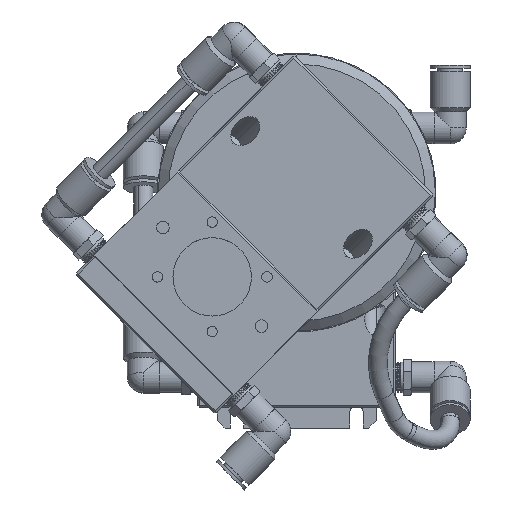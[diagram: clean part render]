
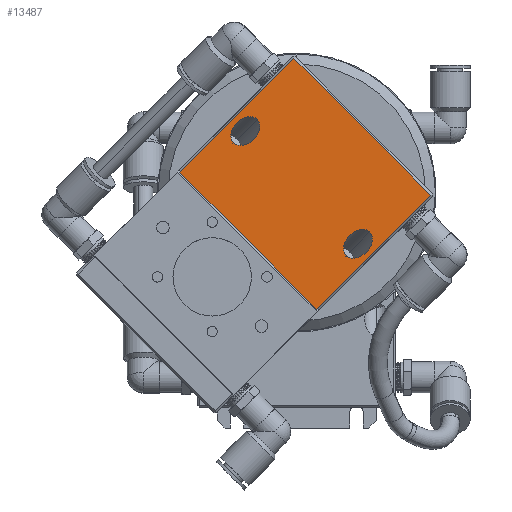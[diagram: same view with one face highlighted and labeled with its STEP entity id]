
A CAD part, top view. The second image highlights one B-rep face of the part: STEP entity #13487.
In plain terms, the highlighted planar face has unit normal (0, 0, 1).
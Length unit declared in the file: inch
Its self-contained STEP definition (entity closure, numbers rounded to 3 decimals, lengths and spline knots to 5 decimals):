
#45 = EDGE_CURVE ( 'NONE', #20404, #13181, #15575, .T. ) ;
#280 = CARTESIAN_POINT ( 'NONE',  ( -0.45906, 3.33767, 24.15199 ) ) ;
#479 = CARTESIAN_POINT ( 'NONE',  ( -1.90933, 1.8874, 24.15199 ) ) ;
#556 = VERTEX_POINT ( 'NONE', #17065 ) ;
#1728 =( BOUNDED_CURVE ( )  B_SPLINE_CURVE ( 3, ( #7573, #13856, #4454, #15426 ),
 .UNSPECIFIED., .F., .T. ) 
 B_SPLINE_CURVE_WITH_KNOTS ( ( 4, 4 ),
 ( 3.14159, 6.28319 ),
 .UNSPECIFIED. ) 
 CURVE ( )  GEOMETRIC_REPRESENTATION_ITEM ( )  RATIONAL_B_SPLINE_CURVE ( ( 1., 0.333, 0.333, 1. ) ) 
 REPRESENTATION_ITEM ( '' )  );
#2082 = ORIENTED_EDGE ( 'NONE', *, *, #4378, .T. ) ;
#2163 = LINE ( 'NONE', #7308, #19119 ) ;
#2369 = CARTESIAN_POINT ( 'NONE',  ( -1.03378, 2.6484, 24.15199 ) ) ;
#2384 = LINE ( 'NONE', #2712, #14449 ) ;
#2700 = CARTESIAN_POINT ( 'NONE',  ( -2.6573, 4.27191, 24.15199 ) ) ;
#2712 = CARTESIAN_POINT ( 'NONE',  ( -0.45906, 3.30232, 24.15199 ) ) ;
#2806 = CARTESIAN_POINT ( 'NONE',  ( -1.24309, 2.8577, 24.15199 ) ) ;
#3400 = ORIENTED_EDGE ( 'NONE', *, *, #3833, .T. ) ;
#3629 = EDGE_CURVE ( 'NONE', #8925, #9160, #15584, .T. ) ;
#3695 = CARTESIAN_POINT ( 'NONE',  ( -1.89166, 1.86972, 24.15199 ) ) ;
#3833 = EDGE_CURVE ( 'NONE', #13181, #556, #2384, .T. ) ;
#3976 = CARTESIAN_POINT ( 'NONE',  ( -1.24309, 2.8577, 24.15199 ) ) ;
#3980 = CARTESIAN_POINT ( 'NONE',  ( -2.6573, 4.27191, 24.15199 ) ) ;
#4023 = EDGE_LOOP ( 'NONE', ( #5061, #4424 ) ) ;
#4378 = EDGE_CURVE ( 'NONE', #556, #15440, #2163, .T. ) ;
#4424 = ORIENTED_EDGE ( 'NONE', *, *, #20112, .T. ) ;
#4454 = CARTESIAN_POINT ( 'NONE',  ( -2.744, 3.76661, 24.15199 ) ) ;
#4504 = EDGE_CURVE ( 'NONE', #17190, #8904, #1728, .T. ) ;
#4705 =( BOUNDED_CURVE ( )  B_SPLINE_CURVE ( 3, ( #8606, #10154, #13373, #3980 ),
 .UNSPECIFIED., .F., .T. ) 
 B_SPLINE_CURVE_WITH_KNOTS ( ( 4, 4 ),
 ( 0., 3.14159 ),
 .UNSPECIFIED. ) 
 CURVE ( )  GEOMETRIC_REPRESENTATION_ITEM ( )  RATIONAL_B_SPLINE_CURVE ( ( 1., 0.333, 0.333, 1. ) ) 
 REPRESENTATION_ITEM ( '' )  );
#5061 = ORIENTED_EDGE ( 'NONE', *, *, #3629, .T. ) ;
#5090 = FACE_OUTER_BOUND ( 'NONE', #7911, .T. ) ;
#5566 = CARTESIAN_POINT ( 'NONE',  ( -1.53909, 2.5617, 24.15199 ) ) ;
#5828 = DIRECTION ( 'NONE',  ( 0., 0., -1. ) ) ;
#6572 = DIRECTION ( 'NONE',  ( 0.707, 0.707, 0. ) ) ;
#7254 = VECTOR ( 'NONE', #6572, 39.37008 ) ;
#7308 = CARTESIAN_POINT ( 'NONE',  ( -3.6276, 3.60567, 24.15199 ) ) ;
#7323 = ORIENTED_EDGE ( 'NONE', *, *, #9260, .F. ) ;
#7349 = PLANE ( 'NONE',  #13796 ) ;
#7466 = CARTESIAN_POINT ( 'NONE',  ( -2.9533, 3.97591, 24.15199 ) ) ;
#7473 = ORIENTED_EDGE ( 'NONE', *, *, #45, .T. ) ;
#7573 = CARTESIAN_POINT ( 'NONE',  ( -2.6573, 4.27191, 24.15199 ) ) ;
#7911 = EDGE_LOOP ( 'NONE', ( #3400, #2082, #7323, #7473 ) ) ;
#8299 = FACE_BOUND ( 'NONE', #19807, .T. ) ;
#8606 = CARTESIAN_POINT ( 'NONE',  ( -2.9533, 3.97591, 24.15199 ) ) ;
#8904 = VERTEX_POINT ( 'NONE', #7466 ) ;
#8925 = VERTEX_POINT ( 'NONE', #13735 ) ;
#9160 = VERTEX_POINT ( 'NONE', #11182 ) ;
#9260 = EDGE_CURVE ( 'NONE', #20404, #15440, #13989, .T. ) ;
#9600 = CARTESIAN_POINT ( 'NONE',  ( -0.47674, 3.32, 24.15199 ) ) ;
#10154 = CARTESIAN_POINT ( 'NONE',  ( -3.1626, 4.18522, 24.15199 ) ) ;
#10519 = ORIENTED_EDGE ( 'NONE', *, *, #11633, .T. ) ;
#11182 = CARTESIAN_POINT ( 'NONE',  ( -1.53909, 2.5617, 24.15199 ) ) ;
#11526 = DIRECTION ( 'NONE',  ( -0.707, 0.707, 0. ) ) ;
#11633 = EDGE_CURVE ( 'NONE', #8904, #17190, #4705, .T. ) ;
#12197 = CARTESIAN_POINT ( 'NONE',  ( -1.45239, 3.067, 24.15199 ) ) ;
#12241 = DIRECTION ( 'NONE',  ( -0.707, 0.707, 0. ) ) ;
#12906 = ORIENTED_EDGE ( 'NONE', *, *, #4504, .T. ) ;
#13003 = VECTOR ( 'NONE', #11526, 39.37008 ) ;
#13181 = VERTEX_POINT ( 'NONE', #9600 ) ;
#13373 = CARTESIAN_POINT ( 'NONE',  ( -2.8666, 4.48122, 24.15199 ) ) ;
#13487 = ADVANCED_FACE ( 'NONE', ( #16140, #8299, #5090 ), #7349, .F. ) ;
#13625 = CARTESIAN_POINT ( 'NONE',  ( -0.44138, 3.32, 24.15199 ) ) ;
#13735 = CARTESIAN_POINT ( 'NONE',  ( -1.24309, 2.8577, 24.15199 ) ) ;
#13796 = AXIS2_PLACEMENT_3D ( 'NONE', #13625, #5828, #16809 ) ;
#13856 = CARTESIAN_POINT ( 'NONE',  ( -2.448, 4.06261, 24.15199 ) ) ;
#13989 = LINE ( 'NONE', #3695, #13003 ) ;
#14449 = VECTOR ( 'NONE', #12241, 39.37008 ) ;
#15156 = CARTESIAN_POINT ( 'NONE',  ( -3.6276, 3.60567, 24.15199 ) ) ;
#15324 = CARTESIAN_POINT ( 'NONE',  ( -1.74839, 2.771, 24.15199 ) ) ;
#15426 = CARTESIAN_POINT ( 'NONE',  ( -2.9533, 3.97591, 24.15199 ) ) ;
#15440 = VERTEX_POINT ( 'NONE', #15156 ) ;
#15575 = LINE ( 'NONE', #280, #7254 ) ;
#15584 =( BOUNDED_CURVE ( )  B_SPLINE_CURVE ( 3, ( #3976, #2369, #18072, #5566 ),
 .UNSPECIFIED., .F., .F. ) 
 B_SPLINE_CURVE_WITH_KNOTS ( ( 4, 4 ),
 ( 3.14159, 6.28319 ),
 .UNSPECIFIED. ) 
 CURVE ( )  GEOMETRIC_REPRESENTATION_ITEM ( )  RATIONAL_B_SPLINE_CURVE ( ( 1., 0.333, 0.333, 1. ) ) 
 REPRESENTATION_ITEM ( '' )  );
#15676 =( BOUNDED_CURVE ( )  B_SPLINE_CURVE ( 3, ( #19995, #15324, #12197, #2806 ),
 .UNSPECIFIED., .F., .F. ) 
 B_SPLINE_CURVE_WITH_KNOTS ( ( 4, 4 ),
 ( 0., 3.14159 ),
 .UNSPECIFIED. ) 
 CURVE ( )  GEOMETRIC_REPRESENTATION_ITEM ( )  RATIONAL_B_SPLINE_CURVE ( ( 1., 0.333, 0.333, 1. ) ) 
 REPRESENTATION_ITEM ( '' )  );
#16140 = FACE_BOUND ( 'NONE', #4023, .T. ) ;
#16809 = DIRECTION ( 'NONE',  ( 0.707, -0.707, 0. ) ) ;
#17065 = CARTESIAN_POINT ( 'NONE',  ( -2.195, 5.03826, 24.15199 ) ) ;
#17190 = VERTEX_POINT ( 'NONE', #2700 ) ;
#18072 = CARTESIAN_POINT ( 'NONE',  ( -1.32978, 2.3524, 24.15199 ) ) ;
#18271 = DIRECTION ( 'NONE',  ( -0.707, -0.707, 0. ) ) ;
#19119 = VECTOR ( 'NONE', #18271, 39.37008 ) ;
#19807 = EDGE_LOOP ( 'NONE', ( #12906, #10519 ) ) ;
#19995 = CARTESIAN_POINT ( 'NONE',  ( -1.53909, 2.5617, 24.15199 ) ) ;
#20112 = EDGE_CURVE ( 'NONE', #9160, #8925, #15676, .T. ) ;
#20404 = VERTEX_POINT ( 'NONE', #479 ) ;
